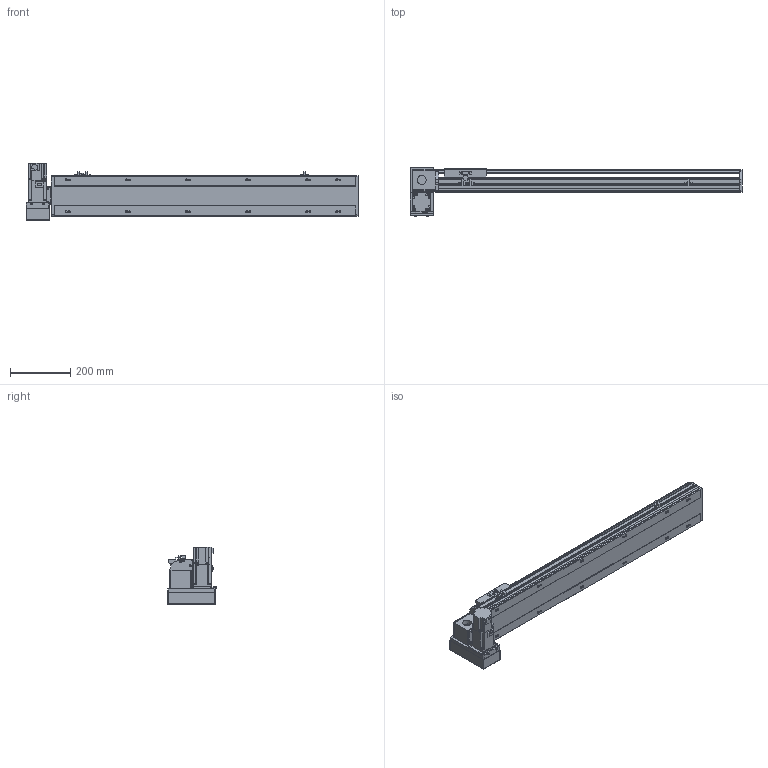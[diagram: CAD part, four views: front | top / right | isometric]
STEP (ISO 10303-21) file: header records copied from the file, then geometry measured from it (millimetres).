
FILE_DESCRIPTION( ( 'STEP AP214' ), '1' );
FILE_NAME( 'x:/temp/worker_27/temp/exporttempdir_6708_557_Hneb7/format_0/PBS140-P40-S750-LD-T40-C1-N(0).stp', '2022-06-06T05:53:19', ( 'License CC BY-ND 4.0' ), ( 'CADENAS' ), ' ', 'PARTsolutions', ' ' );
FILE_SCHEMA( ( 'AUTOMOTIVE_DESIGN { 1 0 10303 214 1 1 1 1 }' ) );
Length unit declared in the file: millimetre
Products named in the file (7): PBS140-P40-S750-LD-T40-C1-N(0); _PBS140-S750()_body; _PBS140T-LD_motors; _T40-p1; _PBS140_sliser; _PBS140_plant; _PBS140_sensor
Assembly tree (8 placements, depth 2):
  PBS140-P40-S750-LD-T40-C1-N(0)
    _PBS140-S750()_body
    _PBS140T-LD_motors
    _T40-p1
    _PBS140_sliser
    _PBS140_plant
    _PBS140_sensor  x3
Bounding box: 1104 x 162 x 189.7 mm (x, y, z)
Volume: 5464442.8 mm3; surface area: 966528.6 mm2
Topology: 8 solids, 8 shells, 1043 faces, 2756 edges, 1801 vertices
Faces by surface type: plane 680, cylinder 315, cone 38, sphere 8, torus 2
Full cylindrical faces by diameter (mm): 3.242 x4, 4 x2, 4.134 x4, 4.4 x8, 4.5 x2, 4.8 x4, 4.917 x20, 5.5 x7, 6 x2, 7 x14, 7.5 x8, 8 x12, 8.5 x4, 10.5 x12, 14 x1, 30 x2, 50 x2
Entity records: 38005 total; most frequent: CARTESIAN_POINT 5915, DIRECTION 5057, ORIENTED_EDGE 4792, EDGE_CURVE 2396, AXIS2_PLACEMENT_3D 1747, VERTEX_POINT 1653, LINE 1563, VECTOR 1563
